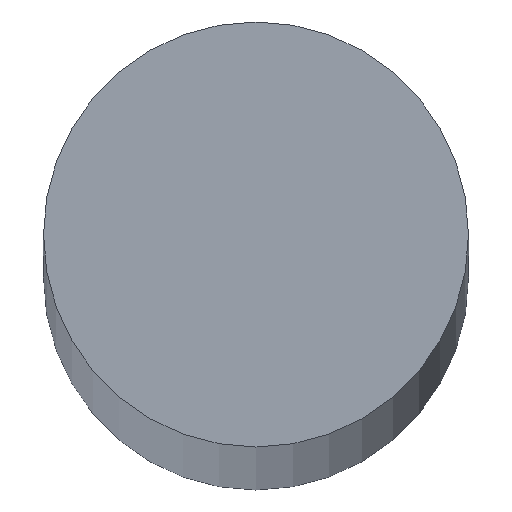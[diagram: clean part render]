
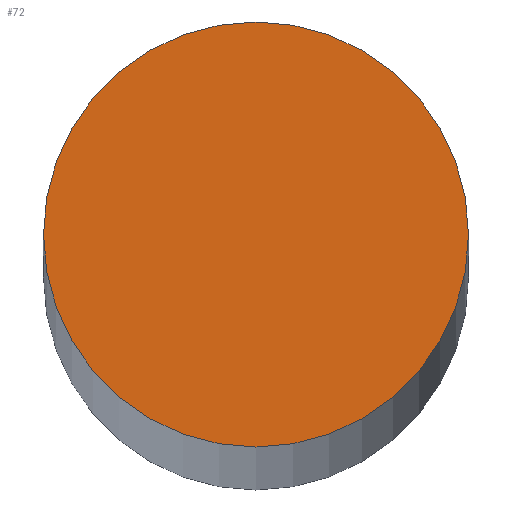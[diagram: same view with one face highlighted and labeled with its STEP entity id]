
A CAD part, top view. The second image highlights one B-rep face of the part: STEP entity #72.
In plain terms, the highlighted planar face has unit normal (0, 0, 1).
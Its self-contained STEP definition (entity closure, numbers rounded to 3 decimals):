
#2 = VERTEX_POINT ( 'NONE', #3 ) ;
#3 = CARTESIAN_POINT ( 'NONE',  ( -6., 0., 347.5 ) ) ;
#4 = PLANE ( 'NONE',  #126 ) ;
#6 = CARTESIAN_POINT ( 'NONE',  ( 6., 0., 347.5 ) ) ;
#8 = VERTEX_POINT ( 'NONE', #6 ) ;
#17 = CARTESIAN_POINT ( 'NONE',  ( 0., 0., 347.5 ) ) ;
#31 = DIRECTION ( 'NONE',  ( 0., 0., 1. ) ) ;
#32 = DIRECTION ( 'NONE',  ( 1., 0., 0. ) ) ;
#38 = CARTESIAN_POINT ( 'NONE',  ( 0., 0., 347.5 ) ) ;
#42 = DIRECTION ( 'NONE',  ( 0., 0., 1. ) ) ;
#43 = DIRECTION ( 'NONE',  ( 1., 0., 0. ) ) ;
#44 = CARTESIAN_POINT ( 'NONE',  ( 0., 0., 347.5 ) ) ;
#46 = DIRECTION ( 'NONE',  ( 0., 0., 1. ) ) ;
#47 = DIRECTION ( 'NONE',  ( 1., 0., 0. ) ) ;
#72 = ADVANCED_FACE ( 'NONE', ( #73 ), #4, .T. ) ;
#73 = FACE_OUTER_BOUND ( 'NONE', #77, .T. ) ;
#77 = EDGE_LOOP ( 'NONE', ( #85, #87 ) ) ;
#85 = ORIENTED_EDGE ( 'NONE', *, *, #135, .T. ) ;
#87 = ORIENTED_EDGE ( 'NONE', *, *, #134, .T. ) ;
#108 = CIRCLE ( 'NONE', #136, 6. ) ;
#109 = CIRCLE ( 'NONE', #117, 6. ) ;
#117 = AXIS2_PLACEMENT_3D ( 'NONE', #44, #46, #47 ) ;
#126 = AXIS2_PLACEMENT_3D ( 'NONE', #17, #31, #32 ) ;
#134 = EDGE_CURVE ( 'NONE', #8, #2, #108, .T. ) ;
#135 = EDGE_CURVE ( 'NONE', #2, #8, #109, .T. ) ;
#136 = AXIS2_PLACEMENT_3D ( 'NONE', #38, #42, #43 ) ;
